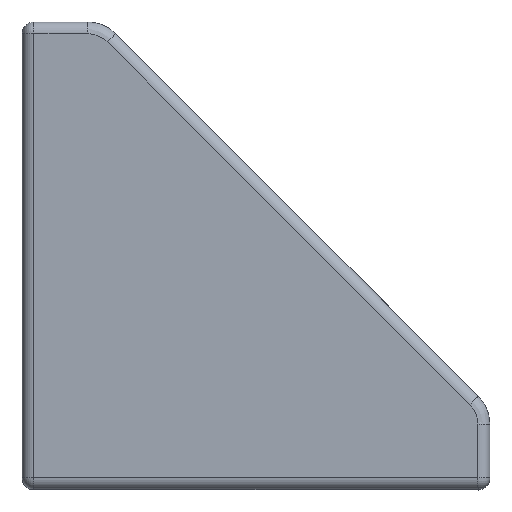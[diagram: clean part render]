
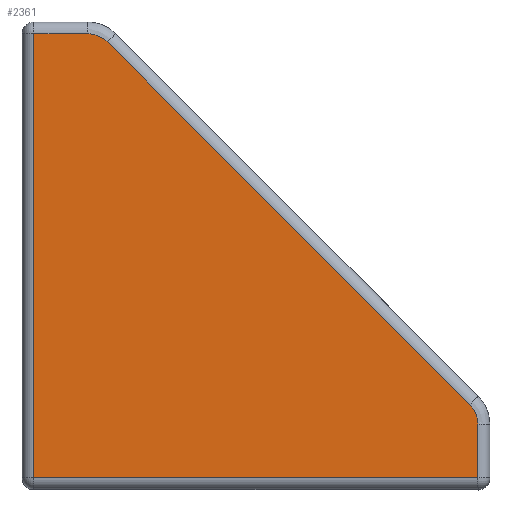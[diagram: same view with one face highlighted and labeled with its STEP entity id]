
A CAD part, top view. The second image highlights one B-rep face of the part: STEP entity #2361.
In plain terms, the highlighted planar face has unit normal (-0.012, -0.012, 1).
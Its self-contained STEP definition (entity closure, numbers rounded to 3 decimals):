
#186 = EDGE_CURVE ( 'NONE', #3608, #4546, #2492, .T. ) ;
#275 = CARTESIAN_POINT ( 'NONE',  ( 38.988, 0.988, 12.493 ) ) ;
#296 = CARTESIAN_POINT ( 'NONE',  ( 7.268, 38.293, 12.562 ) ) ;
#355 =( BOUNDED_CURVE ( )  B_SPLINE_CURVE ( 3, ( #296, #3589, #2407, #703 ),
 .UNSPECIFIED., .F., .T. ) 
 B_SPLINE_CURVE_WITH_KNOTS ( ( 4, 4 ),
 ( 0., 0.785 ),
 .UNSPECIFIED. ) 
 CURVE ( )  GEOMETRIC_REPRESENTATION_ITEM ( )  RATIONAL_B_SPLINE_CURVE ( ( 1., 0.949, 0.949, 1. ) ) 
 REPRESENTATION_ITEM ( '' )  );
#430 = CARTESIAN_POINT ( 'NONE',  ( 38.293, 7.268, 12.562 ) ) ;
#467 = LINE ( 'NONE', #815, #3205 ) ;
#521 = ORIENTED_EDGE ( 'NONE', *, *, #2689, .F. ) ;
#669 = VERTEX_POINT ( 'NONE', #3940 ) ;
#690 =( BOUNDED_CURVE ( )  B_SPLINE_CURVE ( 3, ( #2680, #1243, #2233, #4403 ),
 .UNSPECIFIED., .F., .F. ) 
 B_SPLINE_CURVE_WITH_KNOTS ( ( 4, 4 ),
 ( 0., 0.785 ),
 .UNSPECIFIED. ) 
 CURVE ( )  GEOMETRIC_REPRESENTATION_ITEM ( )  RATIONAL_B_SPLINE_CURVE ( ( 1., 0.949, 0.949, 1. ) ) 
 REPRESENTATION_ITEM ( '' )  );
#694 = CARTESIAN_POINT ( 'NONE',  ( 5.591, 38.988, 12.55 ) ) ;
#703 = CARTESIAN_POINT ( 'NONE',  ( 5.591, 38.988, 12.55 ) ) ;
#708 = EDGE_CURVE ( 'NONE', #2060, #3128, #690, .T. ) ;
#711 = CARTESIAN_POINT ( 'NONE',  ( 1., 38.988, 12.494 ) ) ;
#768 = DIRECTION ( 'NONE',  ( -0.707, 0.707, 0. ) ) ;
#812 = ORIENTED_EDGE ( 'NONE', *, *, #1736, .T. ) ;
#815 = CARTESIAN_POINT ( 'NONE',  ( 7.268, 38.293, 12.562 ) ) ;
#909 = DIRECTION ( 'NONE',  ( -1., 0., -0.012 ) ) ;
#1070 = PLANE ( 'NONE',  #3581 ) ;
#1071 = EDGE_LOOP ( 'NONE', ( #2392, #521, #4575, #3398, #812, #1325, #2238 ) ) ;
#1160 = VERTEX_POINT ( 'NONE', #275 ) ;
#1243 = CARTESIAN_POINT ( 'NONE',  ( 38.744, 6.817, 12.562 ) ) ;
#1281 = CARTESIAN_POINT ( 'NONE',  ( 0.988, 38.988, 12.493 ) ) ;
#1325 = ORIENTED_EDGE ( 'NONE', *, *, #4120, .T. ) ;
#1326 = DIRECTION ( 'NONE',  ( 0., -1., -0.012 ) ) ;
#1614 = CARTESIAN_POINT ( 'NONE',  ( 1., 0.988, 12.025 ) ) ;
#1683 = LINE ( 'NONE', #1705, #4579 ) ;
#1705 = CARTESIAN_POINT ( 'NONE',  ( 0.988, 1., 12.025 ) ) ;
#1736 = EDGE_CURVE ( 'NONE', #2060, #3893, #467, .T. ) ;
#1825 = DIRECTION ( 'NONE',  ( 0., -1., -0.012 ) ) ;
#1876 = CARTESIAN_POINT ( 'NONE',  ( 7.268, 38.293, 12.562 ) ) ;
#2030 = LINE ( 'NONE', #4219, #2986 ) ;
#2060 = VERTEX_POINT ( 'NONE', #430 ) ;
#2130 = DIRECTION ( 'NONE',  ( -1., 0., -0.012 ) ) ;
#2233 = CARTESIAN_POINT ( 'NONE',  ( 38.988, 6.228, 12.558 ) ) ;
#2238 = ORIENTED_EDGE ( 'NONE', *, *, #186, .T. ) ;
#2281 = EDGE_CURVE ( 'NONE', #4546, #669, #1683, .T. ) ;
#2361 = ADVANCED_FACE ( 'NONE', ( #4345 ), #1070, .T. ) ;
#2387 = DIRECTION ( 'NONE',  ( 0., -1., -0.012 ) ) ;
#2392 = ORIENTED_EDGE ( 'NONE', *, *, #2281, .T. ) ;
#2407 = CARTESIAN_POINT ( 'NONE',  ( 6.228, 38.988, 12.558 ) ) ;
#2450 = VECTOR ( 'NONE', #2130, 1000. ) ;
#2485 = DIRECTION ( 'NONE',  ( -0.012, -0.012, 1. ) ) ;
#2492 = LINE ( 'NONE', #711, #2450 ) ;
#2677 = EDGE_CURVE ( 'NONE', #3128, #1160, #2030, .T. ) ;
#2680 = CARTESIAN_POINT ( 'NONE',  ( 38.293, 7.268, 12.562 ) ) ;
#2689 = EDGE_CURVE ( 'NONE', #1160, #669, #2722, .T. ) ;
#2722 = LINE ( 'NONE', #1614, #4179 ) ;
#2986 = VECTOR ( 'NONE', #1326, 1000. ) ;
#3128 = VERTEX_POINT ( 'NONE', #3891 ) ;
#3205 = VECTOR ( 'NONE', #768, 1000. ) ;
#3398 = ORIENTED_EDGE ( 'NONE', *, *, #708, .F. ) ;
#3581 = AXIS2_PLACEMENT_3D ( 'NONE', #4296, #2485, #1825 ) ;
#3589 = CARTESIAN_POINT ( 'NONE',  ( 6.817, 38.744, 12.562 ) ) ;
#3608 = VERTEX_POINT ( 'NONE', #694 ) ;
#3891 = CARTESIAN_POINT ( 'NONE',  ( 38.988, 5.591, 12.55 ) ) ;
#3893 = VERTEX_POINT ( 'NONE', #1876 ) ;
#3940 = CARTESIAN_POINT ( 'NONE',  ( 0.988, 0.988, 12.024 ) ) ;
#4120 = EDGE_CURVE ( 'NONE', #3893, #3608, #355, .T. ) ;
#4179 = VECTOR ( 'NONE', #909, 1000. ) ;
#4219 = CARTESIAN_POINT ( 'NONE',  ( 38.988, 1., 12.494 ) ) ;
#4296 = CARTESIAN_POINT ( 'NONE',  ( 0., 0., 12. ) ) ;
#4345 = FACE_OUTER_BOUND ( 'NONE', #1071, .T. ) ;
#4403 = CARTESIAN_POINT ( 'NONE',  ( 38.988, 5.591, 12.55 ) ) ;
#4546 = VERTEX_POINT ( 'NONE', #1281 ) ;
#4575 = ORIENTED_EDGE ( 'NONE', *, *, #2677, .F. ) ;
#4579 = VECTOR ( 'NONE', #2387, 1000. ) ;
